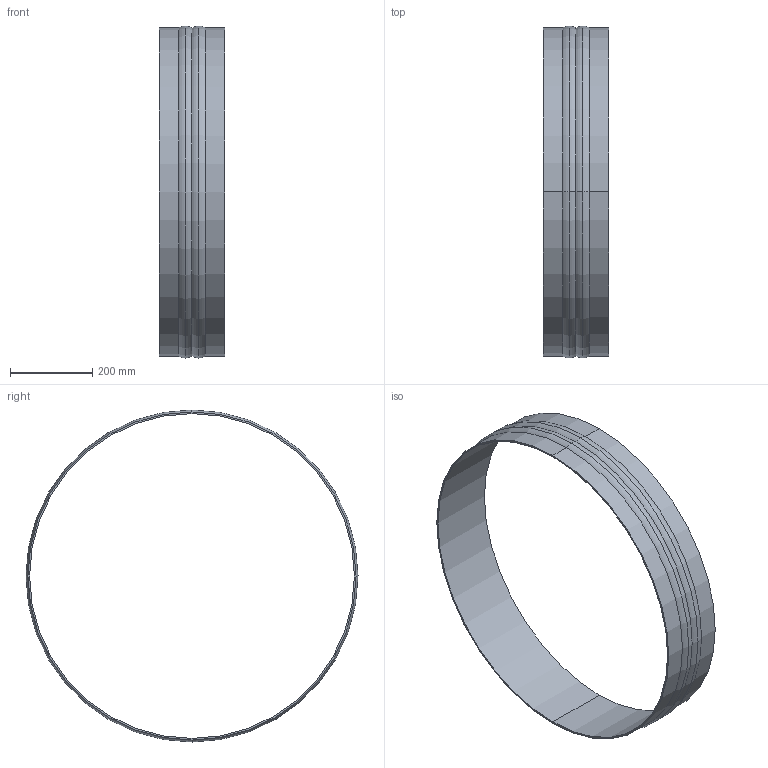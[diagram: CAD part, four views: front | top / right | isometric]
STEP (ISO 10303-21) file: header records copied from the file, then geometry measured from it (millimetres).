
FILE_DESCRIPTION(('STEP AP214'),'1');
FILE_NAME('accessory_5138886700.stp','2017-10-09T09:12:08',('TraceParts'),('TraceParts S.A.'),'Spatial InterOp 3D',' ',' ');
FILE_SCHEMA(('automotive_design'));
Length unit declared in the file: millimetre
Products named in the file (1): accessory_5138886700
Bounding box: 160 x 809.6 x 809.6 mm (x, y, z)
Volume: 2152981.7 mm3; surface area: 829953.5 mm2
Topology: 1 solids, 1 shells, 16 faces, 32 edges, 18 vertices
Faces by surface type: torus 8, cylinder 6, plane 2
Entity records: 570 total; most frequent: DIRECTION 92, CARTESIAN_POINT 67, ORIENTED_EDGE 64, AXIS2_PLACEMENT_3D 43, EDGE_CURVE 32, CIRCLE 26, EDGE_LOOP 18, VERTEX_POINT 18
